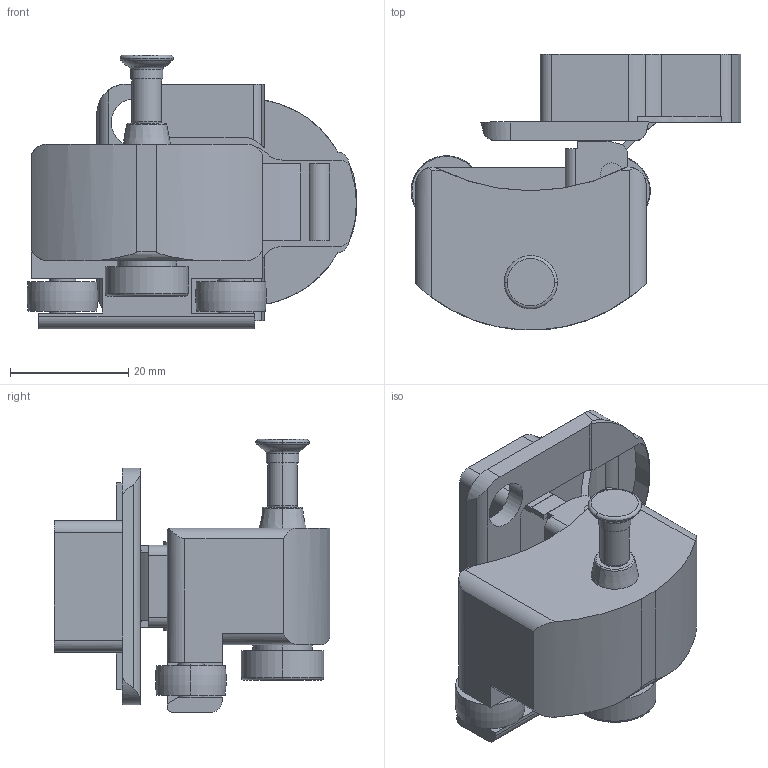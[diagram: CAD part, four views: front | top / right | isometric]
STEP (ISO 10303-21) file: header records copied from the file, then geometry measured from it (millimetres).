
FILE_DESCRIPTION( ( '' ), '1' );
FILE_NAME( 'D:/temp/hettich_stp/hettich/4_folding_sliding/4.4_folding_door/x_kg_wing_line_170_26/70959.stp', '2013-02-26T10:20:02', ( '' ), ( '' ), ' ', ' ', ' ' );
FILE_SCHEMA( ( 'automotive_design' ) );
Length unit declared in the file: millimetre
Products named in the file (1): 1
Bounding box: 55.73 x 46.6 x 46.2 mm (x, y, z)
Volume: 22244.1 mm3; surface area: 16185.7 mm2
Topology: 1 solids, 1 shells, 328 faces, 956 edges, 629 vertices
Faces by surface type: plane 216, cylinder 90, torus 20, cone 2
Entity records: 21656 total; most frequent: CARTESIAN_POINT 2138, STYLED_ITEM 1914, PRESENTATION_STYLE_ASSIGNMENT 1914, COLOUR_RGB 1914, ORIENTED_EDGE 1912, DIRECTION 1837, EDGE_CURVE 956, CURVE_STYLE 956
